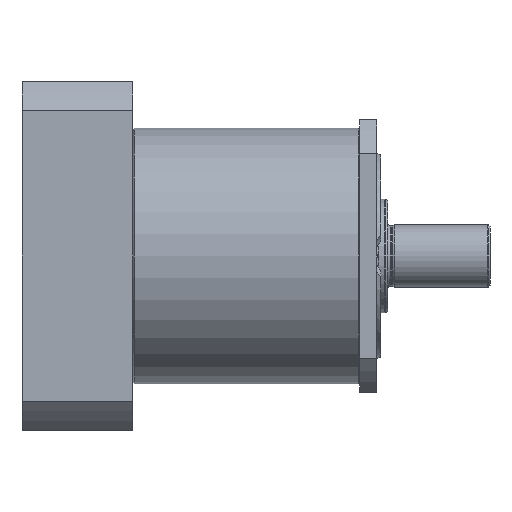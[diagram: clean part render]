
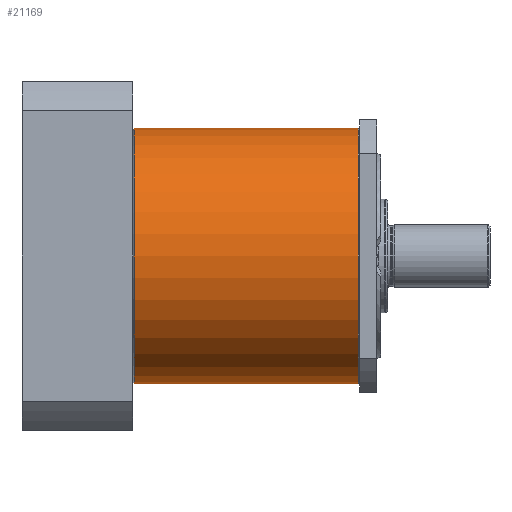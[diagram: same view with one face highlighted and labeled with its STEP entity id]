
A CAD part, front view. The second image highlights one B-rep face of the part: STEP entity #21169.
In plain terms, the highlighted cylindrical face has radius 45 mm (diameter 90 mm), a partial arc.
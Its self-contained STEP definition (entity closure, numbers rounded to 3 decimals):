
#1516 = AXIS2_PLACEMENT_3D ( 'NONE', #29770, #16372, #9325 ) ;
#3877 = DIRECTION ( 'NONE',  ( 0., 0., 1. ) ) ;
#5193 = EDGE_CURVE ( 'NONE', #14386, #21267, #7469, .T. ) ;
#7162 = CARTESIAN_POINT ( 'NONE',  ( 0.5, 0., 45. ) ) ;
#7469 = LINE ( 'NONE', #20418, #32253 ) ;
#7963 = EDGE_CURVE ( 'NONE', #11543, #21267, #12465, .T. ) ;
#9325 = DIRECTION ( 'NONE',  ( 0., 0., -1. ) ) ;
#10554 = DIRECTION ( 'NONE',  ( 1., 0., 0. ) ) ;
#10709 = CARTESIAN_POINT ( 'NONE',  ( 0.5, 0., -45. ) ) ;
#11543 = VERTEX_POINT ( 'NONE', #29566 ) ;
#12013 = ORIENTED_EDGE ( 'NONE', *, *, #5193, .F. ) ;
#12465 = CIRCLE ( 'NONE', #14108, 45. ) ;
#12491 = DIRECTION ( 'NONE',  ( 1., 0., 0. ) ) ;
#12890 = CYLINDRICAL_SURFACE ( 'NONE', #27387, 45. ) ;
#12987 = VERTEX_POINT ( 'NONE', #10709 ) ;
#13240 = DIRECTION ( 'NONE',  ( 0., 0., -1. ) ) ;
#14108 = AXIS2_PLACEMENT_3D ( 'NONE', #24415, #14116, #3877 ) ;
#14116 = DIRECTION ( 'NONE',  ( -1., 0., 0. ) ) ;
#14386 = VERTEX_POINT ( 'NONE', #7162 ) ;
#15866 = EDGE_LOOP ( 'NONE', ( #12013, #29602, #17787, #17615 ) ) ;
#16372 = DIRECTION ( 'NONE',  ( 1., 0., 0. ) ) ;
#17615 = ORIENTED_EDGE ( 'NONE', *, *, #7963, .T. ) ;
#17787 = ORIENTED_EDGE ( 'NONE', *, *, #23643, .T. ) ;
#20418 = CARTESIAN_POINT ( 'NONE',  ( 52.368, 0., 45. ) ) ;
#21169 = ADVANCED_FACE ( 'NONE', ( #26042 ), #12890, .T. ) ;
#21267 = VERTEX_POINT ( 'NONE', #26386 ) ;
#22612 = CARTESIAN_POINT ( 'NONE',  ( 52.368, 0., -45. ) ) ;
#23643 = EDGE_CURVE ( 'NONE', #12987, #11543, #27846, .T. ) ;
#24415 = CARTESIAN_POINT ( 'NONE',  ( 79.5, 0., 0. ) ) ;
#25139 = CIRCLE ( 'NONE', #1516, 45. ) ;
#26042 = FACE_OUTER_BOUND ( 'NONE', #15866, .T. ) ;
#26386 = CARTESIAN_POINT ( 'NONE',  ( 79.5, 0., 45. ) ) ;
#27387 = AXIS2_PLACEMENT_3D ( 'NONE', #28444, #10554, #13240 ) ;
#27846 = LINE ( 'NONE', #22612, #28121 ) ;
#28121 = VECTOR ( 'NONE', #32989, 1000. ) ;
#28444 = CARTESIAN_POINT ( 'NONE',  ( 52.368, 0., 0. ) ) ;
#29566 = CARTESIAN_POINT ( 'NONE',  ( 79.5, 0., -45. ) ) ;
#29602 = ORIENTED_EDGE ( 'NONE', *, *, #30544, .T. ) ;
#29770 = CARTESIAN_POINT ( 'NONE',  ( 0.5, 0., 0. ) ) ;
#30544 = EDGE_CURVE ( 'NONE', #14386, #12987, #25139, .T. ) ;
#32253 = VECTOR ( 'NONE', #12491, 1000. ) ;
#32989 = DIRECTION ( 'NONE',  ( 1., 0., 0. ) ) ;
